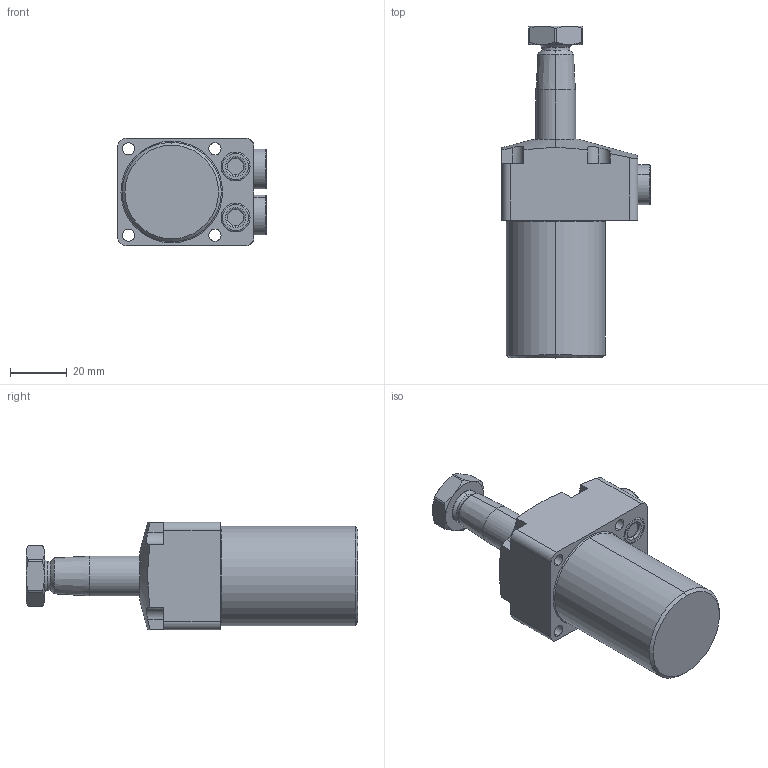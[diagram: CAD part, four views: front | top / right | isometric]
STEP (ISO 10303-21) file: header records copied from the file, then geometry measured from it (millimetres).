
FILE_DESCRIPTION(/* description */ (''),/* implementation_level */ '2;1');
FILE_NAME(/* name */ 'TRC01-R.stp',/* time_stamp */ '2025-01-04T08:34:18+08:00',/* author */ (''),/* organization */ (''),/* preprocessor_version */ 'ST-DEVELOPER v16.7',/* originating_system */ 'SIEMENS PLM Software NX 12.0',/* authorisation */ '');
FILE_SCHEMA (('AUTOMOTIVE_DESIGN { 1 0 10303 214 3 1 1 1 }'));
Length unit declared in the file: millimetre
Products named in the file (5): TRC-R-01; TRC-R-02; TRC-R-03; TRC-R-04; TRC01-R_stp
Assembly tree (5 placements, depth 2):
  TRC01-R_stp
    TRC-R-04  x2
    TRC-R-03
    TRC-R-02
    TRC-R-01
Bounding box: 52.3 x 117 x 38 mm (x, y, z)
Volume: 96092.8 mm3; surface area: 20604.5 mm2
Topology: 7 solids, 7 shells, 203 faces, 457 edges, 280 vertices
Faces by surface type: cylinder 73, plane 67, cone 40, torus 22, sphere 1
Entity records: 5425 total; most frequent: CARTESIAN_POINT 1151, DIRECTION 922, ORIENTED_EDGE 820, EDGE_CURVE 410, AXIS2_PLACEMENT_3D 378, VERTEX_POINT 252, EDGE_LOOP 206, CIRCLE 191
